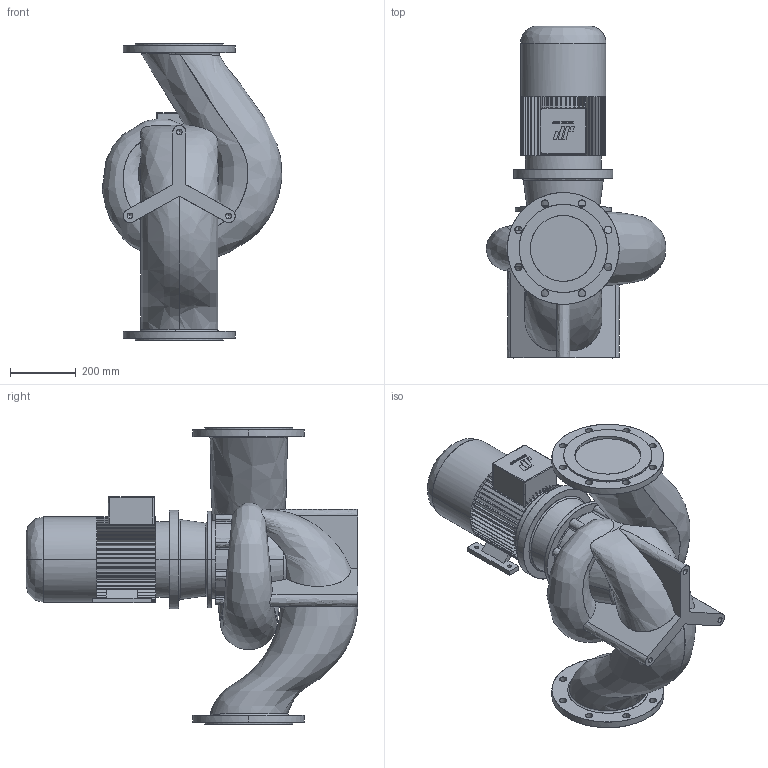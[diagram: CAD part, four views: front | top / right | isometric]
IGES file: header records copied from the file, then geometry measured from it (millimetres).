
Start section: CombiLine
Global section: file name: CLB_200-160_IEC132S_ND10.igs; native system:  By UGS Corp.; preprocessor: XPlus GENERIC/IGES 3.0; author: Stageplaats; organization: Johnson Pump Water B.V.; date: 20070718.090009; units: millimetre
Bounding box: 546 x 1008.5 x 900 mm (x, y, z)
Surface area: 2514629.6 mm2 (no closed solid volume)
Topology: 0 solids, 0 shells, 595 faces, 3609 edges, 3603 vertices
Faces by surface type: bspline 595
